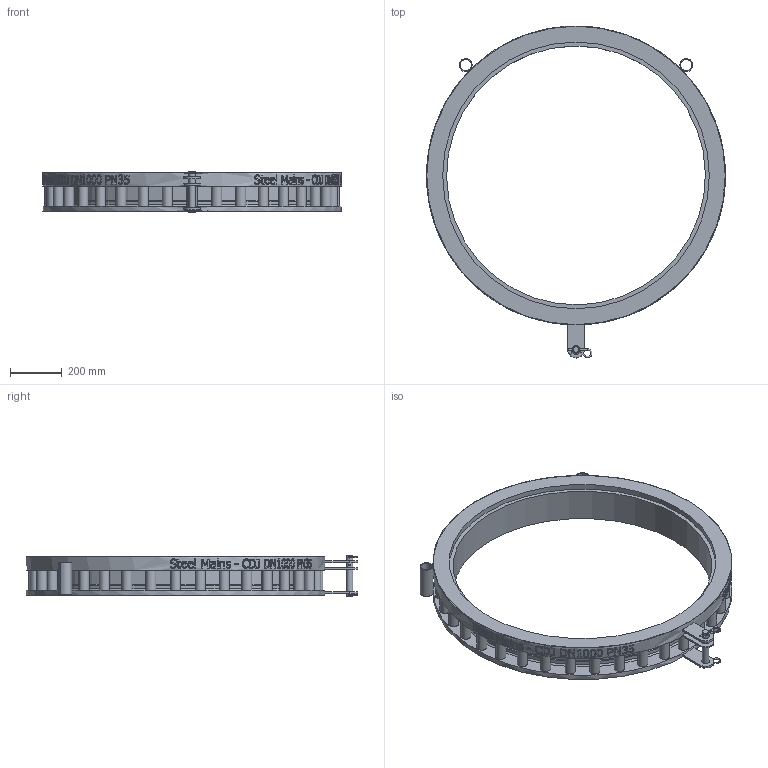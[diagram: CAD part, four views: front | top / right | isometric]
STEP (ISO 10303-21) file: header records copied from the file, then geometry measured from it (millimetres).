
FILE_DESCRIPTION(/* description */ (''),/* implementation_level */ '2;1');
FILE_NAME(/* name */ 'C:\Vault\Designs\Somerton\196\196-44 Models\Marketing Files\SteelMains - CDJ DN1000 PN35 - (196-44T rev B).stp',/* time_stamp */ '2025-09-29T13:20:17+10:00',/* author */ ('Sam.Cavallaro'),/* organization */ (''),/* preprocessor_version */ 'ST-DEVELOPER v18.1',/* originating_system */ 'Autodesk Inventor 2021',/* authorisation */ '');
FILE_SCHEMA (('AUTOMOTIVE_DESIGN { 1 0 10303 214 3 1 1 }'));
Length unit declared in the file: millimetre
Products named in the file (1): SPS_ENG-084886
Bounding box: 1155 x 1282.42 x 161 mm (x, y, z)
Volume: 24739270.2 mm3; surface area: 2346999.6 mm2
Topology: 6 solids, 6 shells, 877 faces, 2390 edges, 1595 vertices
Faces by surface type: bspline 414, plane 313, cylinder 137, torus 8, cone 5
Full cylindrical faces by diameter (mm): 4.8 x10, 6 x3, 25 x1, 30 x3, 39 x36, 44 x2, 1000 x1, 1024 x1, 1030 x2, 1155 x1
Entity records: 38752 total; most frequent: CARTESIAN_POINT 18558, ORIENTED_EDGE 4786, DIRECTION 2923, EDGE_CURVE 2393, VERTEX_POINT 1598, LINE 1095, VECTOR 1095, EDGE_LOOP 1037
